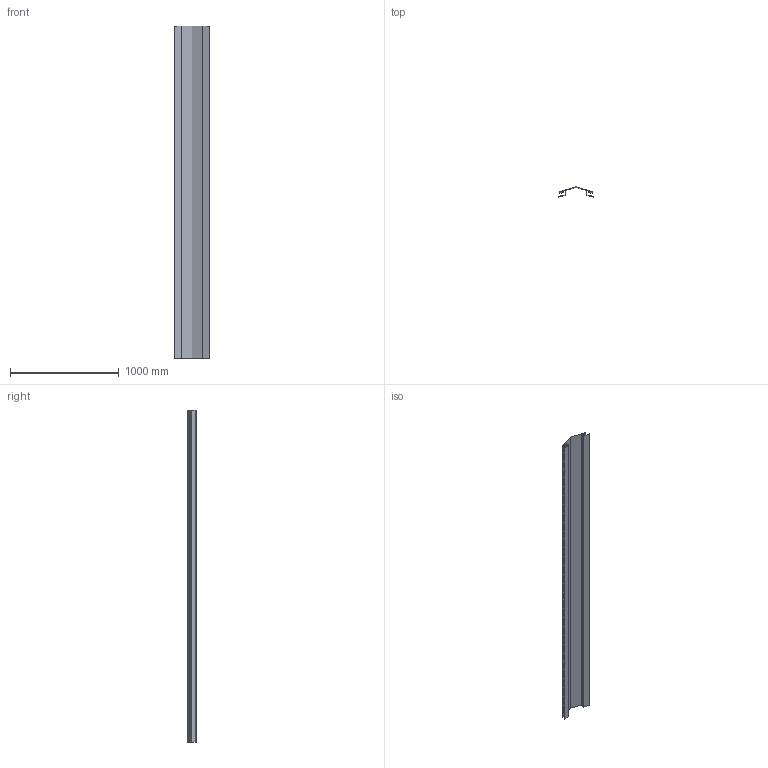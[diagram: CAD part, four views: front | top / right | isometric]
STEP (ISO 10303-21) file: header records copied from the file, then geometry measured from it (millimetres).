
FILE_DESCRIPTION (( 'STEP AP203' ), '1' );
FILE_NAME ('M30A.STEP', '2018-06-15T20:37:57', ( 'Michael Moliner' ), ( '' ), 'SwSTEP 2.0', 'SolidWorks 2018', '' );
FILE_SCHEMA (( 'CONFIG_CONTROL_DESIGN' ));
Length unit declared in the file: inch
Products named in the file (2): M30A
Bounding box: 323.48 x 89.53 x 3048 mm (x, y, z)
Volume: 953125 mm3; surface area: 3774873.9 mm2
Topology: 1 solids, 1 shells, 7294 faces, 23280 edges, 14560 vertices
Faces by surface type: plane 7280, cylinder 14
Entity records: 253481 total; most frequent: ORIENTED_EDGE 46560, CARTESIAN_POINT 45136, DIRECTION 37900, EDGE_CURVE 23280, VECTOR 23252, LINE 23252, VERTEX_POINT 14560, EDGE_LOOP 8722
